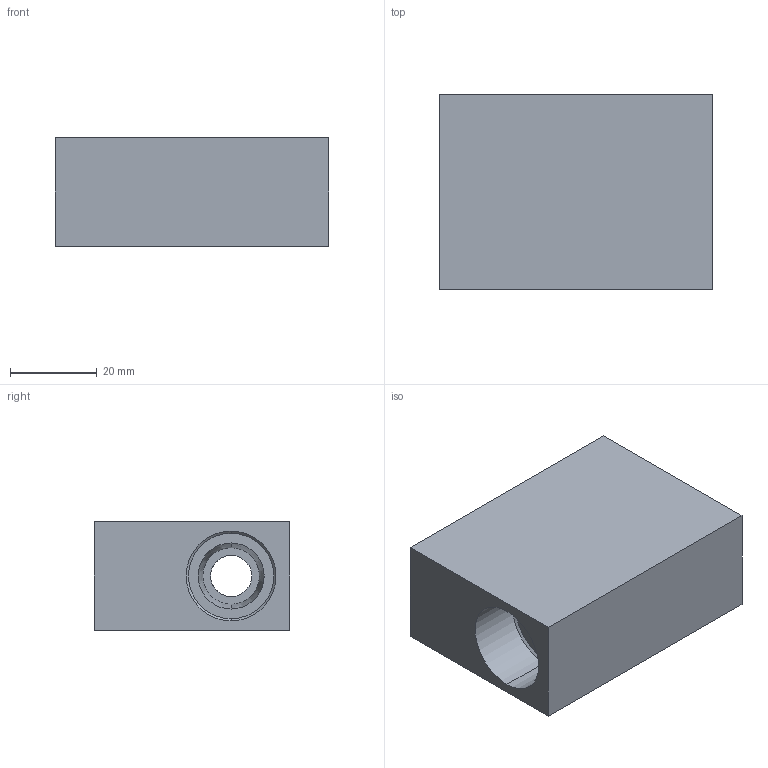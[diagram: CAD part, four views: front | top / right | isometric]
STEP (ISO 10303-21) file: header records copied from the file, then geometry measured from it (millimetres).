
FILE_DESCRIPTION (( 'STEP AP203' ), '1' );
FILE_NAME ('FT10TS08.STEP', '2026-06-26T01:22:26', ( 'USER' ), ( '' ), 'SwSTEP 2.0', 'SolidWorks 2023', '' );
FILE_SCHEMA (( 'CONFIG_CONTROL_DESIGN' ));
Length unit declared in the file: millimetre
Products named in the file (1): FT10TS08
Bounding box: 63 x 45 x 25 mm (x, y, z)
Volume: 52578.7 mm3; surface area: 14956.8 mm2
Topology: 1 solids, 1 shells, 41 faces, 86 edges, 52 vertices
Faces by surface type: cylinder 17, cone 12, plane 12
Entity records: 1179 total; most frequent: DIRECTION 210, CARTESIAN_POINT 186, ORIENTED_EDGE 172, EDGE_CURVE 86, AXIS2_PLACEMENT_3D 84, VERTEX_POINT 52, EDGE_LOOP 50, LINE 42
